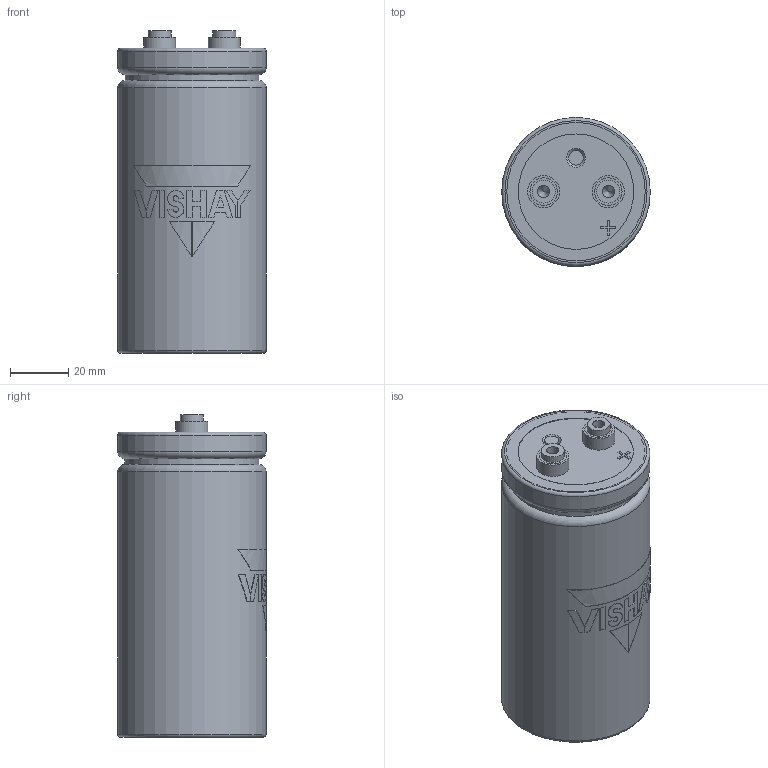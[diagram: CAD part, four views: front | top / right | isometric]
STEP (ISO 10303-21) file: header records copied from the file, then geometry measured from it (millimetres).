
FILE_DESCRIPTION(('FreeCAD Model'),'2;1');
FILE_NAME('C:/Users/tvandesteeg/Documents/Documents/FreeCAD/Stepfiles/ST capacitors/ST_HP_M5_50x105.step','2020-07-02T17:42:43',('Author'),(''), 'Open CASCADE STEP processor 7.3','FreeCAD','Unknown');
FILE_SCHEMA(('AUTOMOTIVE_DESIGN { 1 0 10303 214 1 1 1 1 }'));
Length unit declared in the file: millimetre
Products named in the file (7): VentBody; TerminalBody_(Mirror_#2); TerminalBody; Disc; LogoPrint; CanBody; BottomBody
Bounding box: 51 x 51.1 x 110.8 mm (x, y, z)
Volume: 211824.5 mm3; surface area: 34151.4 mm2
Topology: 17 solids, 17 shells, 149 faces, 313 edges, 206 vertices
Faces by surface type: plane 93, cylinder 48, torus 5, cone 3
Full cylindrical faces by diameter (mm): 4.2 x2, 5 x2, 7.9 x2, 9.45 x6, 11 x2, 39.667 x3, 46 x1, 46.6 x2, 51 x2
Entity records: 10569 total; most frequent: CARTESIAN_POINT 3273, DIRECTION 1204, ORIENTED_EDGE 622, PCURVE 622, DEFINITIONAL_REPRESENTATION 622, LINE 532, VECTOR 532, EDGE_CURVE 311
